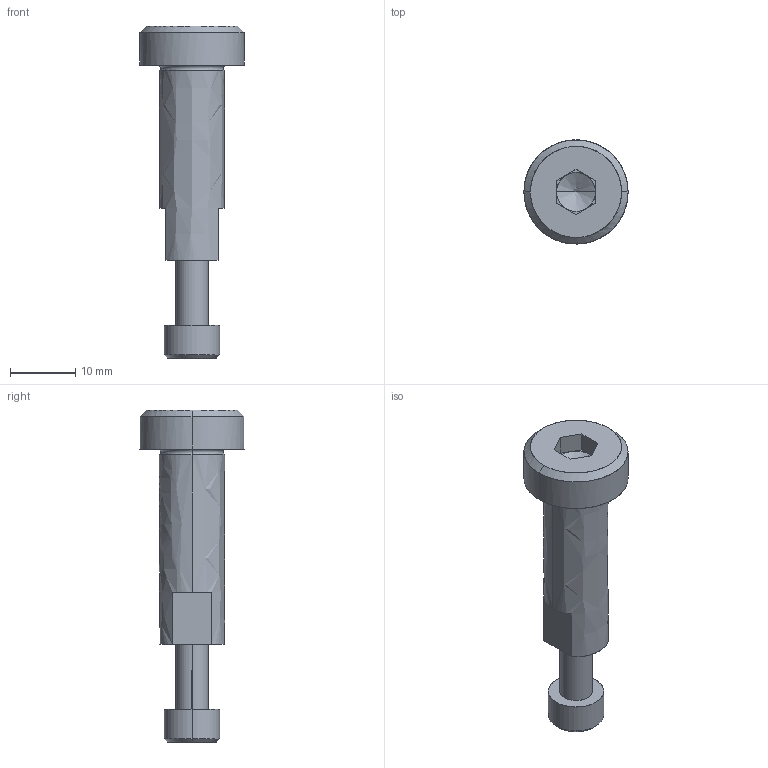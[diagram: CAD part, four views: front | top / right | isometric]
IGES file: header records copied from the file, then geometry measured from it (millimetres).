
Global section: file name: E:\UnigraphicsGraphicData\MISUMI_PRESS-PARTS\IGES\3d_sbt10-30_05075_r00.igs; native system: NX V5.0; preprocessor: UGS NX IGES V5.0; author: MISUMI; date: 20110105.162431; units: millimetre
Bounding box: 16 x 16 x 51 mm (x, y, z)
Surface area: 2603.1 mm2 (no closed solid volume)
Topology: 0 solids, 0 shells, 56 faces, 300 edges, 296 vertices
Faces by surface type: bspline 56
